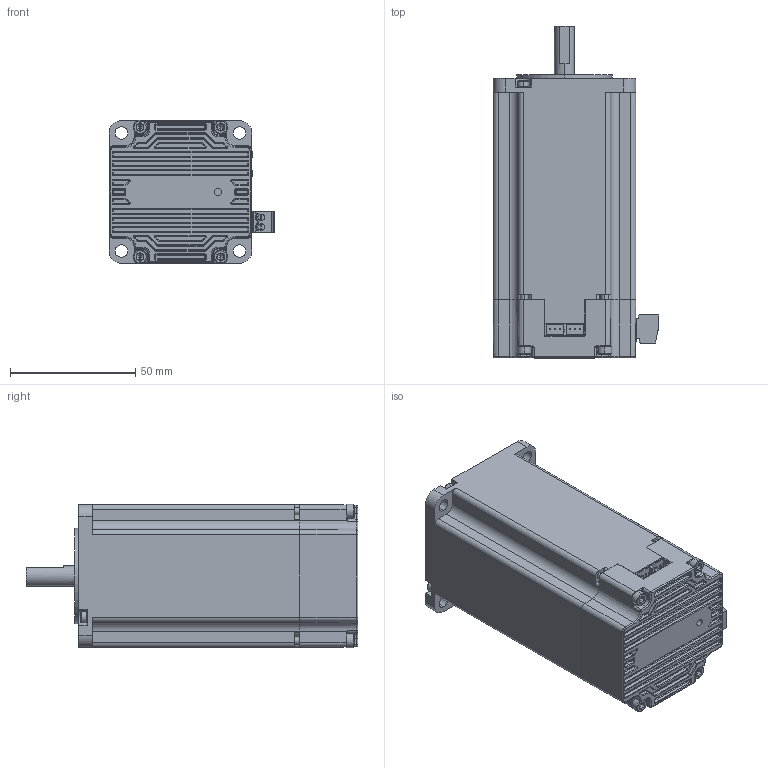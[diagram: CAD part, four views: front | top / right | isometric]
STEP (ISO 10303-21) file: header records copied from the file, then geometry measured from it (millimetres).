
FILE_DESCRIPTION((''),'2;1');
FILE_NAME('IT57AM30-D0821-24V-M','2025-05-07T14:07:06',('ruiwe'),(''),'CREO PARAMETRIC BY PTC INC, 2021063','CREO PARAMETRIC BY PTC INC, 2021063','');
FILE_SCHEMA(('CONFIG_CONTROL_DESIGN','SHAPE_APPEARANCE_LAYERS_GROUPS'));
Products named in the file (1): IT57AM30-D0821-24V-M
Bounding box: 66.25 x 132.5 x 57.24 mm (x, y, z)
Volume: 274811.5 mm3; surface area: 54761.5 mm2
Topology: 1 solids, 2 shells, 2502 faces, 5900 edges, 3450 vertices
Faces by surface type: plane 977, cylinder 922, torus 250, sphere 177, bspline 108, cone 68
Entity records: 83841 total; most frequent: CARTESIAN_POINT 19432, DIRECTION 12281, ORIENTED_EDGE 11776, EDGE_CURVE 5890, AXIS2_PLACEMENT_3D 4398, VECTOR 3485, LINE 3485, VERTEX_POINT 3450
